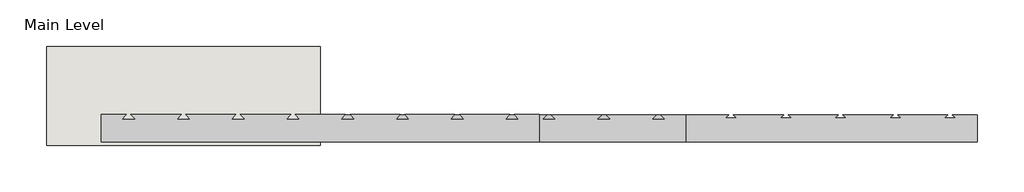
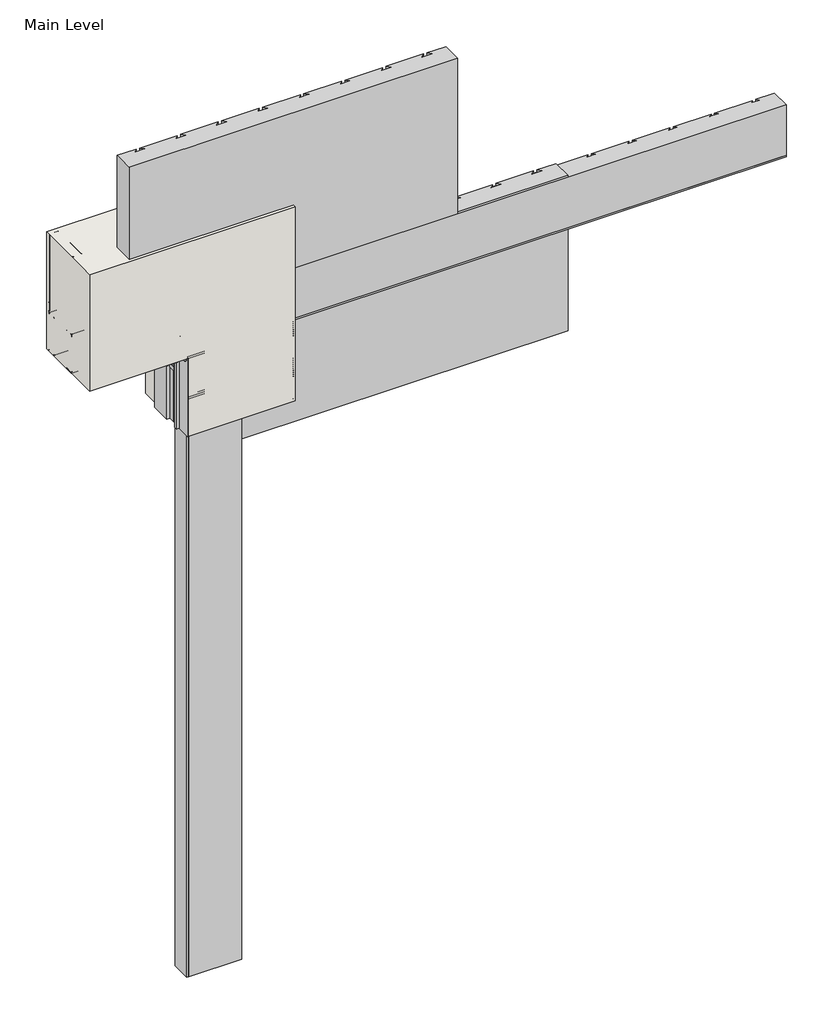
# One storey, incomplete: 26 proxies, 1 wall.
"""IFC4 building model written with IfcOpenShell, lengths in millimetres."""

from ifc_helpers import new_model, si_unit, frame, origin, place, context, project, spatial, polyline, outline, extrude, transform, mapped, element, save
from components import generic_models_31547c53, generic_models_0b6704b8, generic_models_233bf4a6, generic_models_0795693d, generic_models_cb092f88, generic_models_04f31e3c, generic_models_08e6521c, generic_models_d28646c3, proxy_4c3b85e5, proxy_998bcb27, proxy_b027fc18, finish_coat_filler_finish_coat_filler_f99f7fa1, masonry_sill_masonry_sill_15b803c6, masonry_sill1_masonry_sill_665cf46e, masonry_sill2_masonry_sill_6bf34fb1, proxy_a3fd9b0b, proxy_3a0ad636, proxy_0073da47, sealant_sealant_3a8dd322, window_header_window_header_abd4ef46, wood_blocking_5320d369

model = new_model("IFC4")

# Units and contexts
model_context = context("Model", 3, world=origin())
ifc_project = project(units=[si_unit("LENGTHUNIT", "METRE", prefix="MILLI")], contexts=[model_context])

# Site, building, storey
site = spatial("IfcSite", under=ifc_project)
building = spatial("IfcBuilding", under=site)
storey = spatial("IfcBuildingStorey", under=building, Name="Main Level", Elevation=0.0)

# Proxies
placement = place(None, origin())
generic_models_shape = generic_models_31547c53(model_context)
element("IfcBuildingElementProxy", 1, Name="Durabond Generic Model Sealant Vent : Durabond Generic Model Sealant Vent", ObjectType="Durabond Generic Model Sealant Vent : Durabond Generic Model Sealant Vent", at=placement, inside=storey, context=model_context, shape_type="MappedRepresentation", body=[
    mapped(generic_models_shape, transform((26800.7195523, 547.6393211, 304.2607023), x_axis=(1.0, 0.0, 0.0), y_axis=(0.0, 0.08715574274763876, -0.9961946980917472), z_axis=(0.0, 0.9961946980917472, 0.08715574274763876))),
])
generic_models_2_shape = generic_models_0b6704b8(model_context)
element("IfcBuildingElementProxy", 2, Name="Durabond Generic Model Insulation Adhesive Flat : Durabond Generic Model Insulation Adhesive Flat", ObjectType="Durabond Generic Model Insulation Adhesive Flat : Durabond Generic Model Insulation Adhesive Flat", at=placement, inside=storey, context=model_context, shape_type="MappedRepresentation", body=[
    mapped(generic_models_2_shape, transform((26692.3726773, 627.6316297, 381.0), x_axis=(1.0, 0.0, 0.0), y_axis=(0.0, 1.0, 0.0), z_axis=(0.0, 0.0, 1.0))),
])
element("IfcBuildingElementProxy", 3, Name="Durabond Generic Model Insulation Adhesive Flat : Durabond Generic Model Insulation Adhesive Flat", ObjectType="Durabond Generic Model Insulation Adhesive Flat : Durabond Generic Model Insulation Adhesive Flat", at=placement, inside=storey, context=model_context, shape_type="MappedRepresentation", body=[
    mapped(generic_models_2_shape, transform((26793.9726773, 627.6316297, 381.0), x_axis=(1.0, 0.0, 0.0), y_axis=(0.0, 1.0, 0.0), z_axis=(0.0, 0.0, 1.0))),
])
generic_models_3_shape = generic_models_233bf4a6(model_context)
element("IfcBuildingElementProxy", 4, Name="Durabond Generic Model Insulation Adhesive Flat : Durabond Generic Model Insulation Adhesive Flat", ObjectType="Durabond Generic Model Insulation Adhesive Flat : Durabond Generic Model Insulation Adhesive Flat", at=placement, inside=storey, context=model_context, shape_type="MappedRepresentation", body=[
    mapped(generic_models_3_shape, transform((26895.5726773, 627.6316297, 0.0), x_axis=(1.0, 0.0, 0.0), y_axis=(0.0, 1.0, 0.0), z_axis=(0.0, 0.0, 1.0))),
])
element("IfcBuildingElementProxy", 5, Name="Durabond Generic Model Insulation Adhesive Flat : Durabond Generic Model Insulation Adhesive Flat", ObjectType="Durabond Generic Model Insulation Adhesive Flat : Durabond Generic Model Insulation Adhesive Flat", at=placement, inside=storey, context=model_context, shape_type="MappedRepresentation", body=[
    mapped(generic_models_3_shape, transform((26997.1726773, 627.6316297, 0.0), x_axis=(1.0, 0.0, 0.0), y_axis=(0.0, 1.0, 0.0), z_axis=(0.0, 0.0, 1.0))),
])
element("IfcBuildingElementProxy", 6, Name="Durabond Generic Model Insulation Adhesive Flat : Durabond Generic Model Insulation Adhesive Flat", ObjectType="Durabond Generic Model Insulation Adhesive Flat : Durabond Generic Model Insulation Adhesive Flat", at=placement, inside=storey, context=model_context, shape_type="MappedRepresentation", body=[
    mapped(generic_models_3_shape, transform((27098.7726773, 627.6316297, 0.0), x_axis=(1.0, 0.0, 0.0), y_axis=(0.0, 1.0, 0.0), z_axis=(0.0, 0.0, 1.0))),
])
element("IfcBuildingElementProxy", 7, Name="Durabond Generic Model Insulation Adhesive Flat : Durabond Generic Model Insulation Adhesive Flat", ObjectType="Durabond Generic Model Insulation Adhesive Flat : Durabond Generic Model Insulation Adhesive Flat", at=placement, inside=storey, context=model_context, shape_type="MappedRepresentation", body=[
    mapped(generic_models_3_shape, transform((27200.3726773, 627.6316297, 0.0), x_axis=(1.0, 0.0, 0.0), y_axis=(0.0, 1.0, 0.0), z_axis=(0.0, 0.0, 1.0))),
])
generic_models_4_shape = generic_models_0795693d(model_context)
generic_models_5_shape = generic_models_cb092f88(model_context)
generic_models_6_shape = generic_models_04f31e3c(model_context)
generic_models_7_shape = generic_models_08e6521c(model_context)
element("IfcBuildingElementProxy", 8, Name="CRAi Generic Model Mesh Piece Face Based : CRAi Generic Model Mesh Piece Face Based", ObjectType="CRAi Generic Model Mesh Piece Face Based : CRAi Generic Model Mesh Piece Face Based", at=placement, inside=storey, context=model_context, shape_type="MappedRepresentation", body=[
    mapped(generic_models_4_shape, transform((27054.3226773, 541.9066297, 155.3366797), x_axis=(-1.0, 0.0, 0.0), y_axis=(0.0, 0.0, -1.0), z_axis=(0.0, -1.0, 0.0))),
    mapped(generic_models_5_shape, transform((27054.3226773, 541.9066297, 155.3366797), x_axis=(-1.0, 0.0, 0.0), y_axis=(0.0, 0.0, -1.0), z_axis=(0.0, -1.0, 0.0))),
    mapped(generic_models_6_shape, transform((27054.3226773, 541.9066297, 155.3366797), x_axis=(-1.0, 0.0, 0.0), y_axis=(0.0, 0.0, -1.0), z_axis=(0.0, -1.0, 0.0))),
    mapped(generic_models_7_shape, transform((27054.3226773, 541.9066297, 155.3366797), x_axis=(-1.0, 0.0, 0.0), y_axis=(0.0, 0.0, -1.0), z_axis=(0.0, -1.0, 0.0))),
])
generic_models_8_shape = generic_models_d28646c3(model_context)
element("IfcBuildingElementProxy", 9, Name="CRAi Generic Model Line Based Drip Deflector : CRAi Generic Model Line Based Drip Deflector", ObjectType="CRAi Generic Model Line Based Drip Deflector : CRAi Generic Model Line Based Drip Deflector", at=placement, inside=storey, context=model_context, shape_type="MappedRepresentation", body=[
    mapped(generic_models_8_shape, transform((26855.8851773, 541.5329375, 295.758643), x_axis=(0.0, 0.996194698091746, 0.08715574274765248), y_axis=(-1.0, 0.0, 0.0), z_axis=(0.0, -0.08715574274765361, 0.996194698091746))),
])
proxy_shape = proxy_4c3b85e5(model_context)
element("IfcBuildingElementProxy", 10, Name="Durabond Generic Model Flexlite Boundary Board : 3\"", ObjectType="Durabond Generic Model Flexlite Boundary Board : 3\"", at=placement, inside=storey, context=model_context, shape_type="MappedRepresentation", body=[
    mapped(proxy_shape, transform((26957.4851773, 624.4566297, -908.175778), x_axis=(0.0, 0.0, -1.0), y_axis=(1.0, 0.0, 0.0), z_axis=(0.0, -1.0, 0.0))),
])
proxy_2_shape = proxy_998bcb27(model_context)
element("IfcBuildingElementProxy", 11, Name="Durabond Generic Model Flexlite Insulation Board : 3\"", ObjectType="Durabond Generic Model Flexlite Insulation Board : 3\"", at=placement, inside=storey, context=model_context, shape_type="MappedRepresentation", body=[
    mapped(proxy_2_shape, transform((27251.1726773, 624.4566297, 819.024222), x_axis=(1.0, 0.0, 0.0), y_axis=(0.0, 0.0, 1.0), z_axis=(0.0, -1.0, 0.0))),
])
element("IfcBuildingElementProxy", 12, Name="Durabond Generic Model Flexlite Insulation Board : 3\"", ObjectType="Durabond Generic Model Flexlite Insulation Board : 3\"", at=placement, inside=storey, context=model_context, shape_type="MappedRepresentation", body=[
    mapped(proxy_2_shape, transform((27659.1601773, 624.4566297, 217.361722), x_axis=(1.0, 0.0, 0.0), y_axis=(0.0, 0.0, 1.0), z_axis=(0.0, -1.0, 0.0))),
])
proxy_3_shape = proxy_b027fc18(model_context)
element("IfcBuildingElementProxy", 13, Name="Durabond Generic Model Flexlite Vent Board : 3\"", ObjectType="Durabond Generic Model Flexlite Vent Board : 3\"", at=placement, inside=storey, context=model_context, shape_type="MappedRepresentation", body=[
    mapped(proxy_3_shape, transform((27860.7726773, 624.4566297, 412.624222), x_axis=(1.0, 0.0, 0.0), y_axis=(0.0, 0.0, 1.0), z_axis=(0.0, -1.0, 0.0))),
])
finish_coat_filler_finish_coat_filler_shape = finish_coat_filler_finish_coat_filler_f99f7fa1(model_context)
element("IfcBuildingElementProxy", 14, Name="Finish Coat Filler : Finish Coat Filler", ObjectType="Finish Coat Filler : Finish Coat Filler", at=placement, inside=storey, context=model_context, shape_type="MappedRepresentation", body=[
    mapped(finish_coat_filler_finish_coat_filler_shape, transform((0.0, 0.0, 0.0), x_axis=(1.0, 0.0, 0.0), y_axis=(0.0, 1.0, 0.0), z_axis=(0.0, 0.0, 1.0))),
])
masonry_sill_masonry_sill_shape = masonry_sill_masonry_sill_15b803c6(model_context)
element("IfcBuildingElementProxy", 15, Name="Masonry Sill : Masonry Sill", ObjectType="Masonry Sill : Masonry Sill", at=placement, inside=storey, context=model_context, shape_type="MappedRepresentation", body=[
    mapped(masonry_sill_masonry_sill_shape, transform((0.0, 0.0, 0.0), x_axis=(1.0, 0.0, 0.0), y_axis=(0.0, 1.0, 0.0), z_axis=(0.0, 0.0, 1.0))),
])
masonry_sill1_masonry_sill_shape = masonry_sill1_masonry_sill_665cf46e(model_context)
element("IfcBuildingElementProxy", 16, Name="Masonry Sill1 : Masonry Sill", ObjectType="Masonry Sill1 : Masonry Sill", at=placement, inside=storey, context=model_context, shape_type="MappedRepresentation", body=[
    mapped(masonry_sill1_masonry_sill_shape, transform((0.0, 0.0, 0.0), x_axis=(1.0, 0.0, 0.0), y_axis=(0.0, 1.0, 0.0), z_axis=(0.0, 0.0, 1.0))),
])
masonry_sill2_masonry_sill_shape = masonry_sill2_masonry_sill_6bf34fb1(model_context)
element("IfcBuildingElementProxy", 17, Name="Masonry Sill2 : Masonry Sill", ObjectType="Masonry Sill2 : Masonry Sill", at=placement, inside=storey, context=model_context, shape_type="MappedRepresentation", body=[
    mapped(masonry_sill2_masonry_sill_shape, transform((0.0, 0.0, 0.0), x_axis=(1.0, 0.0, 0.0), y_axis=(0.0, 1.0, 0.0), z_axis=(0.0, 0.0, 1.0))),
])
proxy_4_shape = proxy_a3fd9b0b(model_context)
element("IfcBuildingElementProxy", 18, Name="CRAi Generic Model Metal Stud : Metal Framing Stud - 1\" x 3.5\"", ObjectType="CRAi Generic Model Metal Stud : Metal Framing Stud - 1\" x 3.5\"", at=placement, inside=storey, context=model_context, shape_type="MappedRepresentation", body=[
    mapped(proxy_4_shape, transform((26876.5226773, 726.0566297, 0.0), x_axis=(1.0, 0.0, 0.0), y_axis=(0.0, 1.0, 0.0), z_axis=(0.0, 0.0, 1.0))),
])
proxy_5_shape = proxy_3a0ad636(model_context)
element("IfcBuildingElementProxy", 19, Name="CRAi Generic Model Metal Stud : Metal Framing Stud - 1\" x 3.5\"", ObjectType="CRAi Generic Model Metal Stud : Metal Framing Stud - 1\" x 3.5\"", at=placement, inside=storey, context=model_context, shape_type="MappedRepresentation", body=[
    mapped(proxy_5_shape, transform((26508.2226773, 726.0566297, 0.0), x_axis=(-1.0, 0.0, 0.0), y_axis=(0.0, -1.0, 0.0), z_axis=(0.0, 0.0, 1.0))),
])
element("IfcBuildingElementProxy", 20, Name="CRAi Generic Model Metal Stud : Metal Framing Stud - 1\" x 3.5\"", ObjectType="CRAi Generic Model Metal Stud : Metal Framing Stud - 1\" x 3.5\"", at=placement, inside=storey, context=model_context, shape_type="MappedRepresentation", body=[
    mapped(proxy_5_shape, transform((26876.5226773, 726.0566297, 0.0), x_axis=(-1.0, 0.0, 0.0), y_axis=(0.0, -1.0, 0.0), z_axis=(0.0, 0.0, 1.0))),
])
proxy_6_shape = proxy_0073da47(model_context)
element("IfcBuildingElementProxy", 21, Name="CRAi Generic Model Metal Stud : Metal Framing Stud - 1\" x 3.5\"", ObjectType="CRAi Generic Model Metal Stud : Metal Framing Stud - 1\" x 3.5\"", at=placement, inside=storey, context=model_context, shape_type="MappedRepresentation", body=[
    mapped(proxy_6_shape, transform((26914.6226773, 726.0566297, 0.0), x_axis=(1.0, 0.0, 0.0), y_axis=(0.0, 1.0, 0.0), z_axis=(0.0, 0.0, 1.0))),
])
sealant_sealant_shape = sealant_sealant_3a8dd322(model_context)
element("IfcBuildingElementProxy", 22, Name="Sealant : Sealant", ObjectType="Sealant : Sealant", at=placement, inside=storey, context=model_context, shape_type="MappedRepresentation", body=[
    mapped(sealant_sealant_shape, transform((0.0, 0.0, 0.0), x_axis=(1.0, 0.0, 0.0), y_axis=(0.0, 1.0, 0.0), z_axis=(0.0, 0.0, 1.0))),
])
window_header_window_header_shape = window_header_window_header_abd4ef46(model_context)
element("IfcBuildingElementProxy", 23, Name="Window Header : Window Header", ObjectType="Window Header : Window Header", at=placement, inside=storey, context=model_context, shape_type="MappedRepresentation", body=[
    mapped(window_header_window_header_shape, transform((0.0, 0.0, 0.0), x_axis=(1.0, 0.0, 0.0), y_axis=(0.0, 1.0, 0.0), z_axis=(0.0, 0.0, 1.0))),
])
wood_blocking_shape = wood_blocking_5320d369(model_context)
element("IfcBuildingElementProxy", 24, Name="CRAi Generic Model Line Based Metal Framing Track : Wood Blocking", ObjectType="CRAi Generic Model Line Based Metal Framing Track : Wood Blocking", at=placement, inside=storey, context=model_context, shape_type="MappedRepresentation", body=[
    mapped(wood_blocking_shape, transform((26489.1726773, 649.8566297, 304.8), x_axis=(1.0, 0.0, 0.0), y_axis=(0.0, 1.0, 0.0), z_axis=(0.0, 0.0, 1.0))),
])
element("IfcBuildingElementProxy", 25, Name="CRAi Generic Model Line Based Metal Framing Track : Wood Blocking", ObjectType="CRAi Generic Model Line Based Metal Framing Track : Wood Blocking", at=placement, inside=storey, context=model_context, shape_type="MappedRepresentation", body=[
    mapped(wood_blocking_shape, transform((26489.1726773, 802.257101, 457.2), x_axis=(1.0, 0.0, 0.0), y_axis=(0.0, -1.0, 0.0), z_axis=(0.0, 0.0, -1.0))),
])
element("IfcBuildingElementProxy", 26, Name="CRAi Generic Model Line Based Metal Framing Track : Wood Blocking", ObjectType="CRAi Generic Model Line Based Metal Framing Track : Wood Blocking", at=placement, inside=storey, context=model_context, shape_type="MappedRepresentation", body=[
    mapped(wood_blocking_shape, transform((26489.1726773, 649.8566297, 457.2), x_axis=(1.0, 0.0, 0.0), y_axis=(0.0, 1.0, 0.0), z_axis=(0.0, 0.0, 1.0))),
])

# Wall
element("IfcWall", 27, ObjectType="189mm (7.5”) EIFS Field Applied on Mtl. Stud Layer - 50mm Grooved Insulation Board Metal Stud Wall (AirStop)", at=placement, inside=storey, context=model_context, shape_type="SweptSolid", body=[
    extrude(outline(polyline([(0.0, 27251.1726773), (762.0, 27251.1726773), (762.0, 26489.1726773), (304.8, 26489.1726773), (304.8, 26857.4726773), (0.0, 26857.4726773), (0.0, 27251.1726773)])), frame((0.0, 538.7316297, 0.0), z_axis=(0.0, 1.0, 0.0), x_axis=(0.0, 0.0, 1.0)), (0.0, 0.0, 1.0), 276.225),
])

save(model, "model.ifc")
